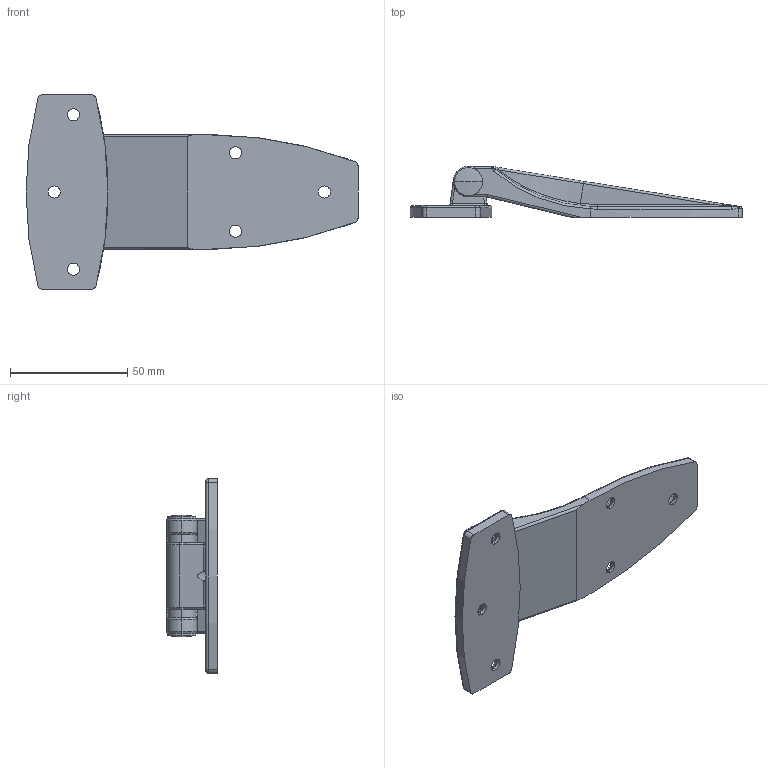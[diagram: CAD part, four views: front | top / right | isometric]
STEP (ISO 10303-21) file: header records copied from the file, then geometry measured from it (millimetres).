
FILE_DESCRIPTION (( 'STEP AP214' ), '1' );
FILE_NAME ('DEH-CL142.STEP', '2020-02-18T10:17:53', ( '' ), ( '' ), 'SwSTEP 2.0', 'SolidWorks 2019', '' );
FILE_SCHEMA (( 'AUTOMOTIVE_DESIGN' ));
Length unit declared in the file: millimetre
Products named in the file (3): DEH-CL142Hinge; DEH-CL142Base; DEH-CL142
Assembly tree (2 placements, depth 2):
  DEH-CL142
    DEH-CL142Base
    DEH-CL142Hinge
Bounding box: 141.8 x 21.7 x 83 mm (x, y, z)
Volume: 59557.1 mm3; surface area: 22486.1 mm2
Topology: 2 solids, 2 shells, 201 faces, 479 edges, 281 vertices
Faces by surface type: cylinder 88, bspline 38, plane 29, torus 26, cone 12, sphere 8
Entity records: 6691 total; most frequent: CARTESIAN_POINT 2093, DIRECTION 982, ORIENTED_EDGE 954, EDGE_CURVE 477, AXIS2_PLACEMENT_3D 418, VERTEX_POINT 281, CIRCLE 250, EDGE_LOOP 216
